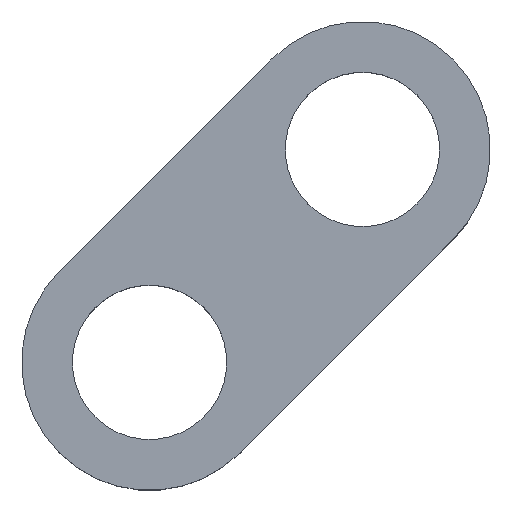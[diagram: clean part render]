
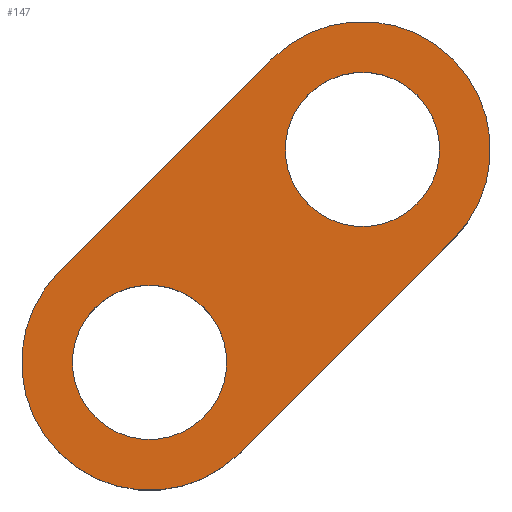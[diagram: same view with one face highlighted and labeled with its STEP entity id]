
A CAD part, top view. The second image highlights one B-rep face of the part: STEP entity #147.
In plain terms, the highlighted planar face has unit normal (0, 0, 1).
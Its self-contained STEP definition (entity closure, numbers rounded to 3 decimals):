
#15=FACE_BOUND('',#38,.T.);
#16=FACE_BOUND('',#39,.T.);
#21=PLANE('',#177);
#29=FACE_OUTER_BOUND('',#37,.T.);
#37=EDGE_LOOP('',(#125,#126,#127,#128));
#38=EDGE_LOOP('',(#129));
#39=EDGE_LOOP('',(#130));
#47=LINE('',#243,#57);
#51=LINE('',#255,#61);
#57=VECTOR('',#199,10.);
#61=VECTOR('',#211,10.);
#63=CIRCLE('',#164,2.05);
#65=CIRCLE('',#167,2.05);
#68=CIRCLE('',#172,3.4);
#70=CIRCLE('',#176,3.4);
#71=VERTEX_POINT('',#225);
#73=VERTEX_POINT('',#231);
#77=VERTEX_POINT('',#240);
#78=VERTEX_POINT('',#242);
#80=VERTEX_POINT('',#248);
#82=VERTEX_POINT('',#254);
#83=EDGE_CURVE('',#71,#71,#63,.T.);
#86=EDGE_CURVE('',#73,#73,#65,.T.);
#91=EDGE_CURVE('',#78,#77,#47,.T.);
#94=EDGE_CURVE('',#80,#78,#68,.T.);
#97=EDGE_CURVE('',#82,#80,#51,.T.);
#100=EDGE_CURVE('',#77,#82,#70,.T.);
#125=ORIENTED_EDGE('',*,*,#100,.T.);
#126=ORIENTED_EDGE('',*,*,#97,.T.);
#127=ORIENTED_EDGE('',*,*,#94,.T.);
#128=ORIENTED_EDGE('',*,*,#91,.T.);
#129=ORIENTED_EDGE('',*,*,#86,.T.);
#130=ORIENTED_EDGE('',*,*,#83,.T.);
#147=ADVANCED_FACE('',(#29,#15,#16),#21,.T.);
#164=AXIS2_PLACEMENT_3D('',#226,#183,#184);
#167=AXIS2_PLACEMENT_3D('',#232,#190,#191);
#172=AXIS2_PLACEMENT_3D('',#249,#205,#206);
#176=AXIS2_PLACEMENT_3D('',#259,#217,#218);
#177=AXIS2_PLACEMENT_3D('',#260,#219,#220);
#183=DIRECTION('center_axis',(0.,0.,-1.));
#184=DIRECTION('ref_axis',(0.707,0.707,0.));
#190=DIRECTION('center_axis',(0.,0.,-1.));
#191=DIRECTION('ref_axis',(0.707,0.707,0.));
#199=DIRECTION('',(-0.707,-0.707,0.));
#205=DIRECTION('center_axis',(0.,0.,1.));
#206=DIRECTION('ref_axis',(0.707,-0.707,0.));
#211=DIRECTION('',(0.707,0.707,0.));
#217=DIRECTION('center_axis',(0.,0.,1.));
#218=DIRECTION('ref_axis',(-0.707,0.707,0.));
#219=DIRECTION('center_axis',(0.,0.,1.));
#220=DIRECTION('ref_axis',(0.707,0.707,0.));
#225=CARTESIAN_POINT('',(6.75,65.8,11.125));
#226=CARTESIAN_POINT('Origin',(8.2,67.25,11.125));
#231=CARTESIAN_POINT('',(12.407,71.457,11.125));
#232=CARTESIAN_POINT('Origin',(13.857,72.907,11.125));
#240=CARTESIAN_POINT('',(5.796,69.654,11.125));
#242=CARTESIAN_POINT('',(11.453,75.311,11.125));
#243=CARTESIAN_POINT('',(11.453,75.311,11.125));
#248=CARTESIAN_POINT('',(16.261,70.503,11.125));
#249=CARTESIAN_POINT('Origin',(13.857,72.907,11.125));
#254=CARTESIAN_POINT('',(10.604,64.846,11.125));
#255=CARTESIAN_POINT('',(10.604,64.846,11.125));
#259=CARTESIAN_POINT('Origin',(8.2,67.25,11.125));
#260=CARTESIAN_POINT('Origin',(11.028,70.078,11.125));
